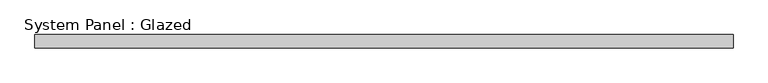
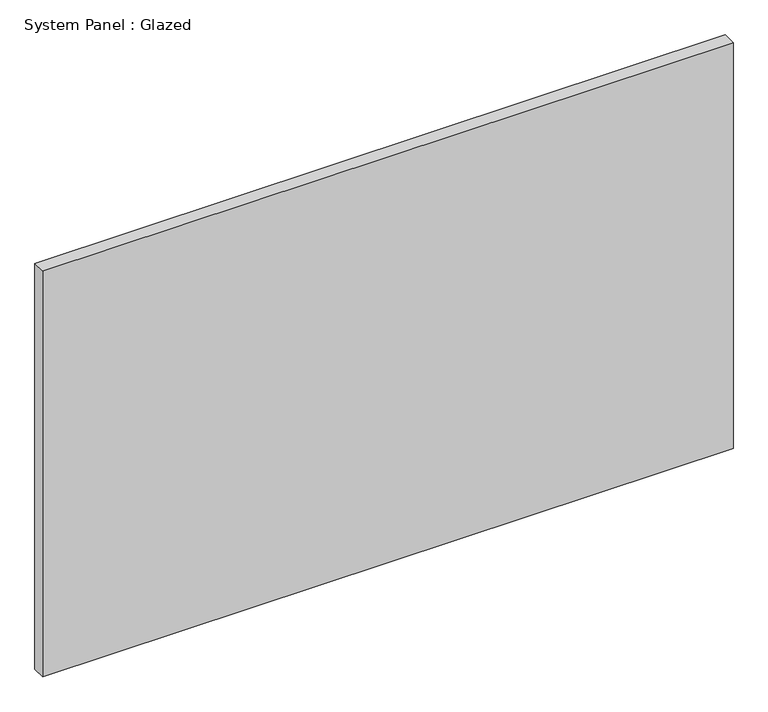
"""IFC4 building model written with IfcOpenShell, lengths in millimetres: plate geometry, System Panel : Glazed."""

from ifc_helpers import new_model, si_unit, origin, origin_with_axes, place, context, project, spatial, polyline, outline, extrude, source, transform, mapped, element, save


def system_panel_glazed_186aa449(model_context):
    return source(origin(), model_context, "Body", "SweptSolid", [
        extrude(outline(polyline([(650.0, 24.5), (-650.0, 24.5), (-650.0, 49.5), (650.0, 49.5), (650.0, 24.5)])), origin_with_axes(), (0.0, 0.0, 1.0), 808.330789),
    ])


if __name__ == "__main__":
    model = new_model("IFC4")
    model_context = context("Model", 3, world=origin())
    ifc_project = project(units=[si_unit("LENGTHUNIT", "METRE", prefix="MILLI")], contexts=[model_context])
    site = spatial("IfcSite", under=ifc_project)
    building = spatial("IfcBuilding", under=site)
    placement = place(None, origin())
    system_panel_glazed_shape = system_panel_glazed_186aa449(model_context)
    element("IfcPlate", 1, ObjectType="System Panel : Glazed", at=placement, inside=building, context=model_context, shape_type="MappedRepresentation", body=[
        mapped(system_panel_glazed_shape, transform((0.0, 0.0, 0.0), x_axis=(1.0, 0.0, 0.0), y_axis=(0.0, 1.0, 0.0), z_axis=(0.0, 0.0, 1.0))),
    ])
    save(model, "model.ifc")
